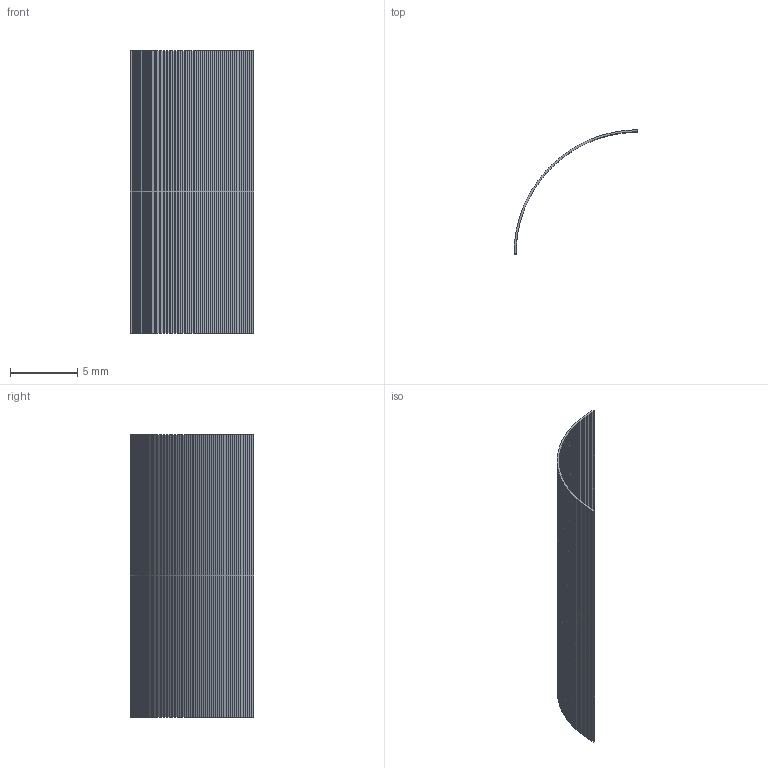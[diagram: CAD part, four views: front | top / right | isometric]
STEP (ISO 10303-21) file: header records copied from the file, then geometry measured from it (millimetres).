
FILE_DESCRIPTION(('Open CASCADE Model'),'2;1');
FILE_NAME('Open CASCADE Shape Model','2026-10-04T01:02:34',('Author'),( 'Open CASCADE'),'Open CASCADE STEP processor 8.0','Open CASCADE 8.0' ,'Unknown');
FILE_SCHEMA(('AUTOMOTIVE_DESIGN { 1 0 10303 214 1 1 1 1 }'));
Length unit declared in the file: millimetre
Products named in the file (1): Open CASCADE STEP translator 8.0 389
Bounding box: 9.2 x 9.2 x 21 mm (x, y, z)
Volume: 45.1 mm3; surface area: 612.3 mm2
Topology: 1 solids, 1 shells, 184 faces, 546 edges, 364 vertices
Faces by surface type: plane 184
Entity records: 13138 total; most frequent: CARTESIAN_POINT 2187, DIRECTION 2008, LINE 1638, VECTOR 1638, ORIENTED_EDGE 1092, PCURVE 1092, DEFINITIONAL_REPRESENTATION 1092, EDGE_CURVE 546
